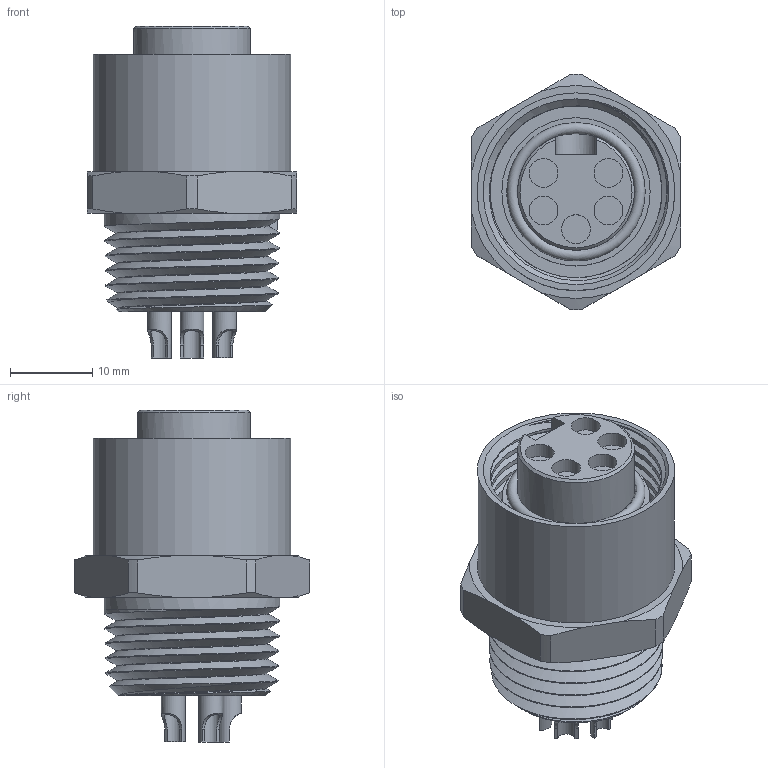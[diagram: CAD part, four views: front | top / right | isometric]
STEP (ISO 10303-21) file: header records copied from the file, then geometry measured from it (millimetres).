
FILE_DESCRIPTION (( 'STEP AP203' ), '1' );
FILE_NAME ('CM03A-PR5S-S-0(R1).STEP', '2022-04-05T09:10:37', ( '' ), ( '' ), 'SwSTEP 2.0', 'SolidWorks 2018', '' );
FILE_SCHEMA (( 'CONFIG_CONTROL_DESIGN' ));
Length unit declared in the file: millimetre
Products named in the file (1): CM03A-PR5S-S-0(R1)
Bounding box: 25.4 x 28.6 x 40.3 mm (x, y, z)
Volume: 12239.8 mm3; surface area: 5629.6 mm2
Topology: 1 solids, 1 shells, 107 faces, 275 edges, 179 vertices
Faces by surface type: plane 39, cylinder 37, cone 21, bspline 9, torus 1
Full cylindrical faces by diameter (mm): 2.1 x5, 2.9 x5, 3.5 x5, 14.2 x1, 18 x1, 20.86 x4, 21.34 x1, 24 x1
Entity records: 7130 total; most frequent: CARTESIAN_POINT 4877, ORIENTED_EDGE 438, DIRECTION 413, EDGE_CURVE 219, AXIS2_PLACEMENT_3D 168, VERTEX_POINT 155, EDGE_LOOP 142, FACE_OUTER_BOUND 123
